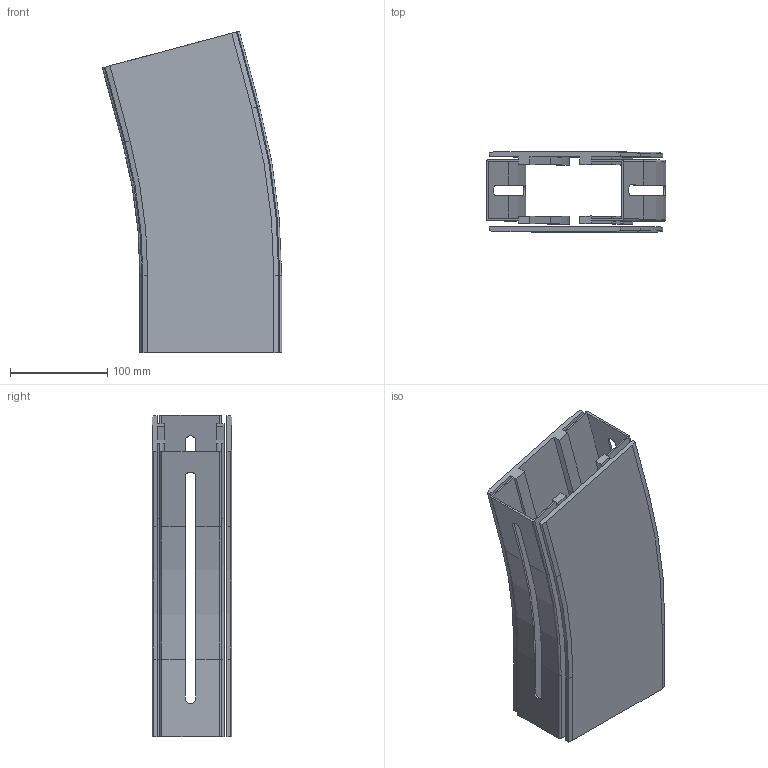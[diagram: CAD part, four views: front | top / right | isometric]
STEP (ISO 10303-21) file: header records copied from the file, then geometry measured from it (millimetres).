
FILE_DESCRIPTION((''),'2;1');
FILE_NAME('C:\Vault Klient\Projekt\Koncept konstruktion\Serie 540 Balk\540-5330.stp','2010-11-25T07:48:03',('Mathias'),(''),'Autodesk Inventor 2011','Autodesk Inventor 2011','');
FILE_SCHEMA(('AUTOMOTIVE_DESIGN { 1 0 10303 214 1 1 1 1 }'));
Length unit declared in the file: millimetre
Products named in the file (1): 540-5330
Bounding box: 184.66 x 82 x 331.46 mm (x, y, z)
Volume: 716115.5 mm3; surface area: 371716.8 mm2
Topology: 2 solids, 2 shells, 155 faces, 434 edges, 284 vertices
Faces by surface type: plane 97, cylinder 34, bspline 14, cone 6, torus 4
Entity records: 5130 total; most frequent: CARTESIAN_POINT 1068, ORIENTED_EDGE 868, DIRECTION 770, EDGE_CURVE 434, VECTOR 326, LINE 326, VERTEX_POINT 284, AXIS2_PLACEMENT_3D 222
